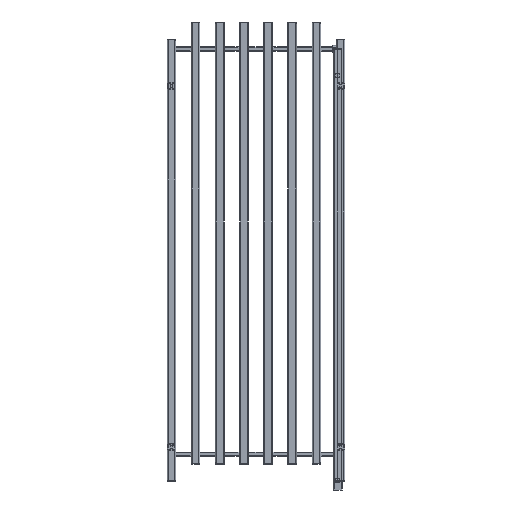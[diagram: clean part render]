
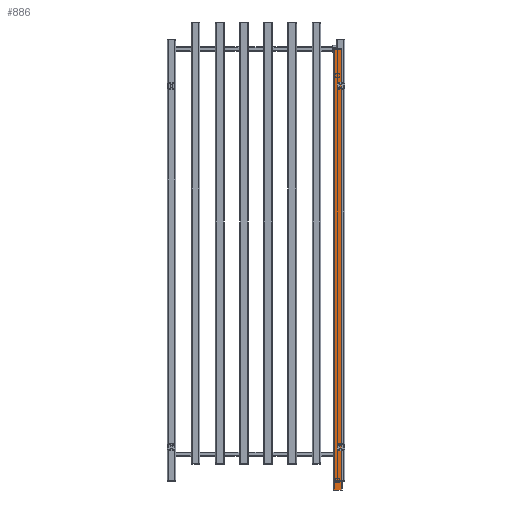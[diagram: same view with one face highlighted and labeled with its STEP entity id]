
A CAD part, left-side view. The second image highlights one B-rep face of the part: STEP entity #886.
In plain terms, the highlighted planar face has unit normal (-1, 0, 0).
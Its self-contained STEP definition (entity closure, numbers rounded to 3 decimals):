
#886 = ADVANCED_FACE( '', ( #1822 ), #1823, .T. );
#1822 = FACE_OUTER_BOUND( '', #2836, .T. );
#1823 = PLANE( '', #2837 );
#2836 = EDGE_LOOP( '', ( #5460, #5461, #5462, #5463 ) );
#2837 = AXIS2_PLACEMENT_3D( '', #5464, #5465, #5466 );
#5460 = ORIENTED_EDGE( '', *, *, #6851, .F. );
#5461 = ORIENTED_EDGE( '', *, *, #6690, .T. );
#5462 = ORIENTED_EDGE( '', *, *, #6032, .T. );
#5463 = ORIENTED_EDGE( '', *, *, #6596, .T. );
#5464 = CARTESIAN_POINT( '', ( -15., 15., -1551. ) );
#5465 = DIRECTION( '', ( -1., 0., 0. ) );
#5466 = DIRECTION( '', ( 0., -1., 0. ) );
#6032 = EDGE_CURVE( '', #7303, #7301, #7304, .T. );
#6596 = EDGE_CURVE( '', #7301, #8173, #8175, .T. );
#6690 = EDGE_CURVE( '', #8295, #7303, #8296, .F. );
#6851 = EDGE_CURVE( '', #8295, #8173, #8487, .T. );
#7301 = VERTEX_POINT( '', #9446 );
#7303 = VERTEX_POINT( '', #9448 );
#7304 = LINE( '', #9449, #9450 );
#8173 = VERTEX_POINT( '', #11042 );
#8175 = LINE( '', #11044, #11045 );
#8295 = VERTEX_POINT( '', #11233 );
#8296 = LINE( '', #11234, #11235 );
#8487 = LINE( '', #11639, #11640 );
#9446 = CARTESIAN_POINT( '', ( -15., -12., -1551. ) );
#9448 = CARTESIAN_POINT( '', ( -15., 12., -1551. ) );
#9449 = CARTESIAN_POINT( '', ( -15., 15., -1551. ) );
#9450 = VECTOR( '', #12005, 1000. );
#11042 = CARTESIAN_POINT( '', ( -15., -12., 0. ) );
#11044 = CARTESIAN_POINT( '', ( -15., -12., -1551. ) );
#11045 = VECTOR( '', #12732, 1000. );
#11233 = CARTESIAN_POINT( '', ( -15., 12., 0. ) );
#11234 = CARTESIAN_POINT( '', ( -15., 12., -1551. ) );
#11235 = VECTOR( '', #12834, 1000. );
#11639 = CARTESIAN_POINT( '', ( -15., 15., 0. ) );
#11640 = VECTOR( '', #12978, 1000. );
#12005 = DIRECTION( '', ( 0., -1., 0. ) );
#12732 = DIRECTION( '', ( 0., 0., 1. ) );
#12834 = DIRECTION( '', ( 0., 0., 1. ) );
#12978 = DIRECTION( '', ( 0., -1., 0. ) );
